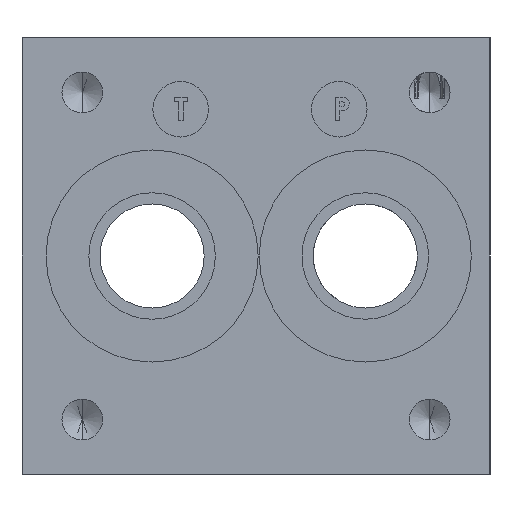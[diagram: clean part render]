
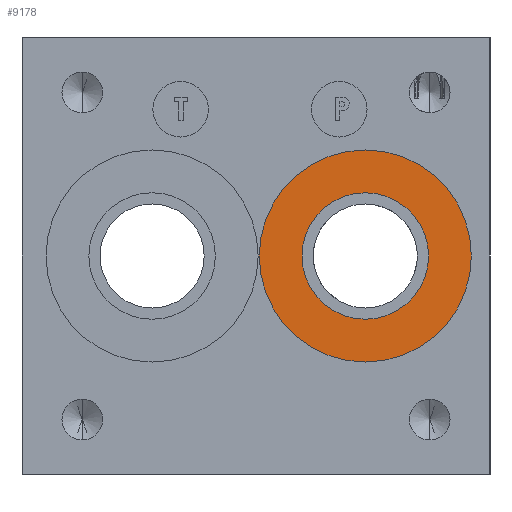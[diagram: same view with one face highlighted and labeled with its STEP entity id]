
A CAD part, left-side view. The second image highlights one B-rep face of the part: STEP entity #9178.
In plain terms, the highlighted planar face has unit normal (-1, 0, 0).
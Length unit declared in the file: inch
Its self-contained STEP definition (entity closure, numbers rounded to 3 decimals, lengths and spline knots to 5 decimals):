
#259 = ORIENTED_EDGE ( 'NONE', *, *, #13801, .F. ) ;
#557 = EDGE_LOOP ( 'NONE', ( #259, #10383 ) ) ;
#1249 = DIRECTION ( 'NONE',  ( 0., 0., -1. ) ) ;
#1385 = DIRECTION ( 'NONE',  ( 1., 0., 0. ) ) ;
#1429 = CIRCLE ( 'NONE', #15747, 0.6684 ) ;
#1587 = AXIS2_PLACEMENT_3D ( 'NONE', #3023, #14194, #4610 ) ;
#1827 = CARTESIAN_POINT ( 'NONE',  ( 0.031, 0.786, 1.375 ) ) ;
#2254 = CARTESIAN_POINT ( 'NONE',  ( 0.031, 0.786, 0.97615 ) ) ;
#2463 = PLANE ( 'NONE',  #8828 ) ;
#2526 = VERTEX_POINT ( 'NONE', #2254 ) ;
#2563 = CIRCLE ( 'NONE', #12183, 0.39885 ) ;
#2900 = ORIENTED_EDGE ( 'NONE', *, *, #13833, .T. ) ;
#3023 = CARTESIAN_POINT ( 'NONE',  ( 0.031, 0.786, 1.375 ) ) ;
#3922 = CARTESIAN_POINT ( 'NONE',  ( 0.031, 0.786, 2.0434 ) ) ;
#4610 = DIRECTION ( 'NONE',  ( 0., 0., 1. ) ) ;
#4956 = DIRECTION ( 'NONE',  ( 0., 0., 1. ) ) ;
#4993 = EDGE_LOOP ( 'NONE', ( #2900, #16174 ) ) ;
#5023 = DIRECTION ( 'NONE',  ( -1., 0., 0. ) ) ;
#5041 = CARTESIAN_POINT ( 'NONE',  ( 0.031, 0.786, 1.375 ) ) ;
#6130 = DIRECTION ( 'NONE',  ( -1., 0., 0. ) ) ;
#6168 = CIRCLE ( 'NONE', #15773, 0.39885 ) ;
#7204 = VERTEX_POINT ( 'NONE', #17652 ) ;
#7513 = CARTESIAN_POINT ( 'NONE',  ( 0.031, 0.786, 1.375 ) ) ;
#8383 = EDGE_CURVE ( 'NONE', #2526, #7204, #2563, .T. ) ;
#8828 = AXIS2_PLACEMENT_3D ( 'NONE', #1827, #1385, #1249 ) ;
#9169 = DIRECTION ( 'NONE',  ( 0., 0., 1. ) ) ;
#9178 = ADVANCED_FACE ( 'NONE', ( #14764, #19635 ), #2463, .F. ) ;
#10383 = ORIENTED_EDGE ( 'NONE', *, *, #8383, .F. ) ;
#11582 = EDGE_CURVE ( 'NONE', #14487, #15407, #11996, .T. ) ;
#11996 = CIRCLE ( 'NONE', #1587, 0.6684 ) ;
#12183 = AXIS2_PLACEMENT_3D ( 'NONE', #5041, #5023, #4956 ) ;
#13801 = EDGE_CURVE ( 'NONE', #7204, #2526, #6168, .T. ) ;
#13833 = EDGE_CURVE ( 'NONE', #15407, #14487, #1429, .T. ) ;
#14194 = DIRECTION ( 'NONE',  ( -1., 0., 0. ) ) ;
#14487 = VERTEX_POINT ( 'NONE', #15453 ) ;
#14764 = FACE_BOUND ( 'NONE', #557, .T. ) ;
#15407 = VERTEX_POINT ( 'NONE', #3922 ) ;
#15453 = CARTESIAN_POINT ( 'NONE',  ( 0.031, 0.786, 0.7066 ) ) ;
#15747 = AXIS2_PLACEMENT_3D ( 'NONE', #15790, #6130, #17411 ) ;
#15773 = AXIS2_PLACEMENT_3D ( 'NONE', #7513, #18864, #9169 ) ;
#15790 = CARTESIAN_POINT ( 'NONE',  ( 0.031, 0.786, 1.375 ) ) ;
#16174 = ORIENTED_EDGE ( 'NONE', *, *, #11582, .T. ) ;
#17411 = DIRECTION ( 'NONE',  ( 0., 0., 1. ) ) ;
#17652 = CARTESIAN_POINT ( 'NONE',  ( 0.031, 0.786, 1.77385 ) ) ;
#18864 = DIRECTION ( 'NONE',  ( -1., 0., 0. ) ) ;
#19635 = FACE_OUTER_BOUND ( 'NONE', #4993, .T. ) ;
